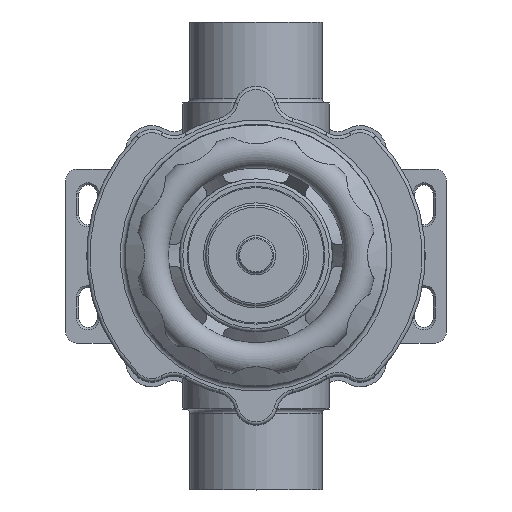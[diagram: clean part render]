
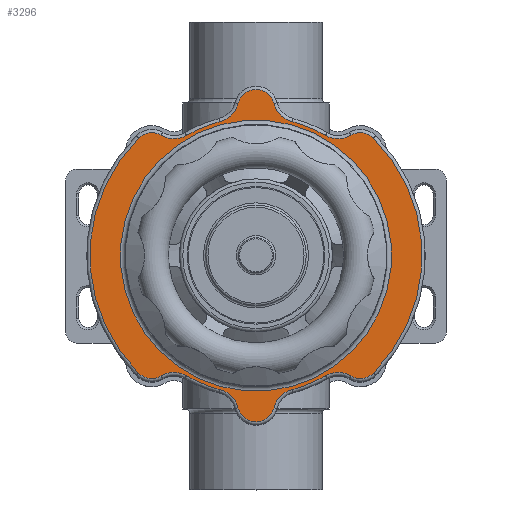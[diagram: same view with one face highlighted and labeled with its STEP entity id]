
A CAD part, top view. The second image highlights one B-rep face of the part: STEP entity #3296.
In plain terms, the highlighted planar face has unit normal (0, 0, 1).
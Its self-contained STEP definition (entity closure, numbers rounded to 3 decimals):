
#2798=FACE_BOUND('',#5223,.T.);
#2799=FACE_BOUND('',#5224,.T.);
#3296=ADVANCED_FACE('',(#2798,#2799),#3842,.T.);
#3842=PLANE('',#15396);
#5223=EDGE_LOOP('',(#7638));
#5224=EDGE_LOOP('',(#7639,#7640,#7641,#7642,#7643,#7644,#7645,#7646,#7647,
#7648,#7649,#7650,#7651,#7652,#7653,#7654,#7655,#7656,#7657,#7658));
#7638=ORIENTED_EDGE('',*,*,#12390,.F.);
#7639=ORIENTED_EDGE('',*,*,#12394,.F.);
#7640=ORIENTED_EDGE('',*,*,#12395,.F.);
#7641=ORIENTED_EDGE('',*,*,#12396,.F.);
#7642=ORIENTED_EDGE('',*,*,#12397,.F.);
#7643=ORIENTED_EDGE('',*,*,#12398,.F.);
#7644=ORIENTED_EDGE('',*,*,#12399,.F.);
#7645=ORIENTED_EDGE('',*,*,#12400,.F.);
#7646=ORIENTED_EDGE('',*,*,#12401,.F.);
#7647=ORIENTED_EDGE('',*,*,#12402,.F.);
#7648=ORIENTED_EDGE('',*,*,#12403,.F.);
#7649=ORIENTED_EDGE('',*,*,#12404,.F.);
#7650=ORIENTED_EDGE('',*,*,#12405,.F.);
#7651=ORIENTED_EDGE('',*,*,#12406,.F.);
#7652=ORIENTED_EDGE('',*,*,#12407,.F.);
#7653=ORIENTED_EDGE('',*,*,#12408,.F.);
#7654=ORIENTED_EDGE('',*,*,#12409,.F.);
#7655=ORIENTED_EDGE('',*,*,#12410,.F.);
#7656=ORIENTED_EDGE('',*,*,#12411,.F.);
#7657=ORIENTED_EDGE('',*,*,#12412,.F.);
#7658=ORIENTED_EDGE('',*,*,#12413,.F.);
#10683=VERTEX_POINT('',#26460);
#10686=VERTEX_POINT('',#26472);
#10687=VERTEX_POINT('',#26473);
#10688=VERTEX_POINT('',#26475);
#10689=VERTEX_POINT('',#26477);
#10690=VERTEX_POINT('',#26479);
#10691=VERTEX_POINT('',#26481);
#10692=VERTEX_POINT('',#26483);
#10693=VERTEX_POINT('',#26485);
#10694=VERTEX_POINT('',#26487);
#10695=VERTEX_POINT('',#26489);
#10696=VERTEX_POINT('',#26491);
#10697=VERTEX_POINT('',#26493);
#10698=VERTEX_POINT('',#26495);
#10699=VERTEX_POINT('',#26497);
#10700=VERTEX_POINT('',#26499);
#10701=VERTEX_POINT('',#26501);
#10702=VERTEX_POINT('',#26503);
#10703=VERTEX_POINT('',#26505);
#10704=VERTEX_POINT('',#26507);
#10705=VERTEX_POINT('',#26509);
#12390=EDGE_CURVE('',#10683,#10683,#14073,.T.);
#12394=EDGE_CURVE('',#10686,#10687,#14077,.T.);
#12395=EDGE_CURVE('',#10688,#10686,#14078,.T.);
#12396=EDGE_CURVE('',#10689,#10688,#14079,.T.);
#12397=EDGE_CURVE('',#10690,#10689,#14080,.T.);
#12398=EDGE_CURVE('',#10691,#10690,#14081,.T.);
#12399=EDGE_CURVE('',#10692,#10691,#14082,.T.);
#12400=EDGE_CURVE('',#10693,#10692,#14083,.T.);
#12401=EDGE_CURVE('',#10694,#10693,#14084,.T.);
#12402=EDGE_CURVE('',#10695,#10694,#14085,.T.);
#12403=EDGE_CURVE('',#10696,#10695,#14086,.T.);
#12404=EDGE_CURVE('',#10697,#10696,#14087,.T.);
#12405=EDGE_CURVE('',#10698,#10697,#14088,.T.);
#12406=EDGE_CURVE('',#10699,#10698,#14089,.T.);
#12407=EDGE_CURVE('',#10700,#10699,#14090,.T.);
#12408=EDGE_CURVE('',#10701,#10700,#14091,.T.);
#12409=EDGE_CURVE('',#10702,#10701,#14092,.T.);
#12410=EDGE_CURVE('',#10703,#10702,#14093,.T.);
#12411=EDGE_CURVE('',#10704,#10703,#14094,.T.);
#12412=EDGE_CURVE('',#10705,#10704,#14095,.T.);
#12413=EDGE_CURVE('',#10687,#10705,#14096,.T.);
#14073=CIRCLE('',#15367,62.);
#14077=CIRCLE('',#15376,11.5);
#14078=CIRCLE('',#15377,8.5);
#14079=CIRCLE('',#15378,11.5);
#14080=CIRCLE('',#15379,63.5);
#14081=CIRCLE('',#15380,11.5);
#14082=CIRCLE('',#15381,8.5);
#14083=CIRCLE('',#15382,76.);
#14084=CIRCLE('',#15383,8.5);
#14085=CIRCLE('',#15384,11.5);
#14086=CIRCLE('',#15385,63.5);
#14087=CIRCLE('',#15386,11.5);
#14088=CIRCLE('',#15387,8.5);
#14089=CIRCLE('',#15388,11.5);
#14090=CIRCLE('',#15389,63.5);
#14091=CIRCLE('',#15390,11.5);
#14092=CIRCLE('',#15391,8.5);
#14093=CIRCLE('',#15392,76.);
#14094=CIRCLE('',#15393,8.5);
#14095=CIRCLE('',#15394,11.5);
#14096=CIRCLE('',#15395,63.5);
#15367=AXIS2_PLACEMENT_3D('',#26459,#18117,#18118);
#15376=AXIS2_PLACEMENT_3D('',#26471,#18135,#18136);
#15377=AXIS2_PLACEMENT_3D('',#26474,#18137,#18138);
#15378=AXIS2_PLACEMENT_3D('',#26476,#18139,#18140);
#15379=AXIS2_PLACEMENT_3D('',#26478,#18141,#18142);
#15380=AXIS2_PLACEMENT_3D('',#26480,#18143,#18144);
#15381=AXIS2_PLACEMENT_3D('',#26482,#18145,#18146);
#15382=AXIS2_PLACEMENT_3D('',#26484,#18147,#18148);
#15383=AXIS2_PLACEMENT_3D('',#26486,#18149,#18150);
#15384=AXIS2_PLACEMENT_3D('',#26488,#18151,#18152);
#15385=AXIS2_PLACEMENT_3D('',#26490,#18153,#18154);
#15386=AXIS2_PLACEMENT_3D('',#26492,#18155,#18156);
#15387=AXIS2_PLACEMENT_3D('',#26494,#18157,#18158);
#15388=AXIS2_PLACEMENT_3D('',#26496,#18159,#18160);
#15389=AXIS2_PLACEMENT_3D('',#26498,#18161,#18162);
#15390=AXIS2_PLACEMENT_3D('',#26500,#18163,#18164);
#15391=AXIS2_PLACEMENT_3D('',#26502,#18165,#18166);
#15392=AXIS2_PLACEMENT_3D('',#26504,#18167,#18168);
#15393=AXIS2_PLACEMENT_3D('',#26506,#18169,#18170);
#15394=AXIS2_PLACEMENT_3D('',#26508,#18171,#18172);
#15395=AXIS2_PLACEMENT_3D('',#26510,#18173,#18174);
#15396=AXIS2_PLACEMENT_3D('',#26511,#18175,#18176);
#18117=DIRECTION('',(0.,0.,1.));
#18118=DIRECTION('',(-1.,0.,0.));
#18135=DIRECTION('',(0.,0.,1.));
#18136=DIRECTION('',(-1.,0.006,0.));
#18137=DIRECTION('',(0.,0.,-1.));
#18138=DIRECTION('',(0.707,0.707,0.));
#18139=DIRECTION('',(0.,0.,1.));
#18140=DIRECTION('',(0.006,-1.,0.));
#18141=DIRECTION('',(0.,0.,-1.));
#18142=DIRECTION('',(0.383,0.924,0.));
#18143=DIRECTION('',(0.,0.,1.));
#18144=DIRECTION('',(-0.711,-0.703,0.));
#18145=DIRECTION('',(0.,0.,-1.));
#18146=DIRECTION('',(0.613,0.79,0.));
#18147=DIRECTION('',(0.,0.,-1.));
#18148=DIRECTION('',(-0.707,0.707,0.));
#18149=DIRECTION('',(0.,0.,-1.));
#18150=DIRECTION('',(-0.79,-0.613,0.));
#18151=DIRECTION('',(0.,0.,1.));
#18152=DIRECTION('',(0.703,0.711,0.));
#18153=DIRECTION('',(0.,0.,-1.));
#18154=DIRECTION('',(-0.924,-0.383,0.));
#18155=DIRECTION('',(0.,0.,1.));
#18156=DIRECTION('',(1.,-0.006,0.));
#18157=DIRECTION('',(0.,0.,-1.));
#18158=DIRECTION('',(-0.707,-0.707,0.));
#18159=DIRECTION('',(0.,0.,1.));
#18160=DIRECTION('',(-0.006,1.,0.));
#18161=DIRECTION('',(0.,0.,-1.));
#18162=DIRECTION('',(-0.383,-0.924,0.));
#18163=DIRECTION('',(0.,0.,1.));
#18164=DIRECTION('',(0.711,0.703,0.));
#18165=DIRECTION('',(0.,0.,-1.));
#18166=DIRECTION('',(-0.613,-0.79,0.));
#18167=DIRECTION('',(0.,0.,-1.));
#18168=DIRECTION('',(0.707,-0.707,0.));
#18169=DIRECTION('',(0.,0.,-1.));
#18170=DIRECTION('',(0.79,0.613,0.));
#18171=DIRECTION('',(0.,0.,1.));
#18172=DIRECTION('',(-0.703,-0.711,0.));
#18173=DIRECTION('',(0.,0.,-1.));
#18174=DIRECTION('',(0.924,0.383,0.));
#18175=DIRECTION('',(0.,0.,1.));
#18176=DIRECTION('',(-1.,0.,0.));
#26459=CARTESIAN_POINT('',(0.,0.,33.));
#26460=CARTESIAN_POINT('',(-62.,0.,33.));
#26471=CARTESIAN_POINT('',(64.934,37.531,33.));
#26472=CARTESIAN_POINT('',(55.042,43.395,33.));
#26473=CARTESIAN_POINT('',(54.977,31.776,33.));
#26474=CARTESIAN_POINT('',(47.73,47.73,33.));
#26475=CARTESIAN_POINT('',(43.395,55.042,33.));
#26476=CARTESIAN_POINT('',(37.531,64.934,33.));
#26477=CARTESIAN_POINT('',(31.776,54.977,33.));
#26478=CARTESIAN_POINT('',(0.,0.,33.));
#26479=CARTESIAN_POINT('',(16.406,61.344,33.));
#26480=CARTESIAN_POINT('',(19.377,72.454,33.));
#26481=CARTESIAN_POINT('',(8.235,69.605,33.));
#26482=CARTESIAN_POINT('',(0.,67.5,33.));
#26483=CARTESIAN_POINT('',(0.,76.,33.));
#26484=CARTESIAN_POINT('',(0.,0.,33.));
#26485=CARTESIAN_POINT('',(-76.,0.,33.));
#26486=CARTESIAN_POINT('',(-67.5,0.,33.));
#26487=CARTESIAN_POINT('',(-69.605,-8.235,33.));
#26488=CARTESIAN_POINT('',(-72.454,-19.377,33.));
#26489=CARTESIAN_POINT('',(-61.344,-16.406,33.));
#26490=CARTESIAN_POINT('',(0.,0.,33.));
#26491=CARTESIAN_POINT('',(-54.977,-31.776,33.));
#26492=CARTESIAN_POINT('',(-64.934,-37.531,33.));
#26493=CARTESIAN_POINT('',(-55.042,-43.395,33.));
#26494=CARTESIAN_POINT('',(-47.73,-47.73,33.));
#26495=CARTESIAN_POINT('',(-43.395,-55.042,33.));
#26496=CARTESIAN_POINT('',(-37.531,-64.934,33.));
#26497=CARTESIAN_POINT('',(-31.776,-54.977,33.));
#26498=CARTESIAN_POINT('',(0.,0.,33.));
#26499=CARTESIAN_POINT('',(-16.406,-61.344,33.));
#26500=CARTESIAN_POINT('',(-19.377,-72.454,33.));
#26501=CARTESIAN_POINT('',(-8.235,-69.605,33.));
#26502=CARTESIAN_POINT('',(0.,-67.5,33.));
#26503=CARTESIAN_POINT('',(0.,-76.,33.));
#26504=CARTESIAN_POINT('',(0.,0.,33.));
#26505=CARTESIAN_POINT('',(76.,0.,33.));
#26506=CARTESIAN_POINT('',(67.5,0.,33.));
#26507=CARTESIAN_POINT('',(69.605,8.235,33.));
#26508=CARTESIAN_POINT('',(72.454,19.377,33.));
#26509=CARTESIAN_POINT('',(61.344,16.406,33.));
#26510=CARTESIAN_POINT('',(0.,0.,33.));
#26511=CARTESIAN_POINT('',(0.,0.,33.));
